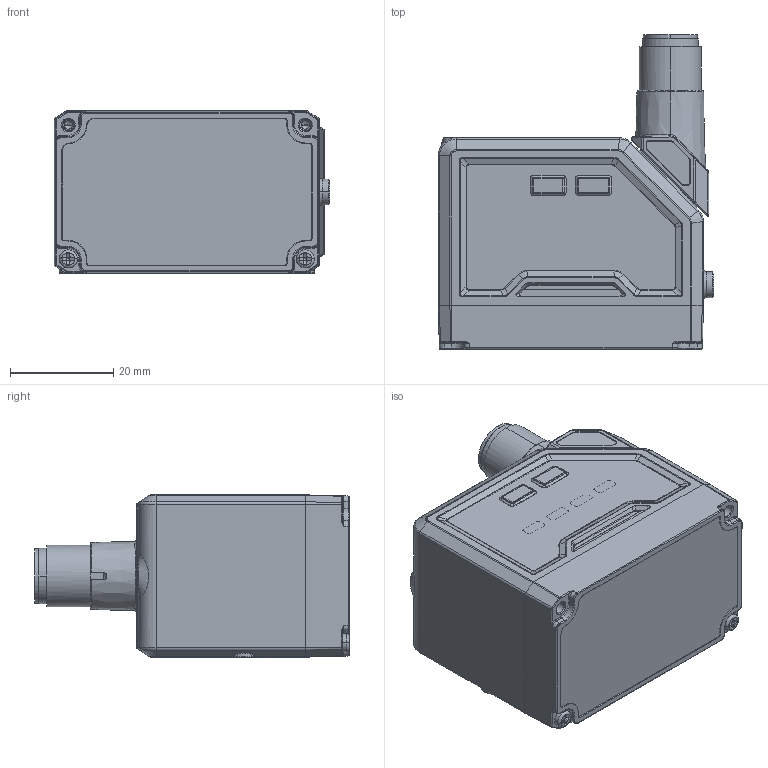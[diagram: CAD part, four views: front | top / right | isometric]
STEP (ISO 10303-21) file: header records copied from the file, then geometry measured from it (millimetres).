
FILE_DESCRIPTION((''),'2;1');
FILE_NAME('000-ID2000X-90','2025-09-11T12:35:10',('yangxiaobing6'),(''),'CREO PARAMETRIC BY PTC INC, 2020044','CREO PARAMETRIC BY PTC INC, 2020044','');
FILE_SCHEMA(('CONFIG_CONTROL_DESIGN','SHAPE_APPEARANCE_LAYERS_GROUPS'));
Products named in the file (1): 000-ID2000X-90
Bounding box: 53.5 x 61.04 x 31.5 mm (x, y, z)
Volume: 62902.6 mm3; surface area: 18815.1 mm2
Topology: 1 solids, 25 shells, 1784 faces, 4420 edges, 2719 vertices
Faces by surface type: plane 608, cylinder 556, cone 268, bspline 185, torus 134, extrusion 21, sphere 12
Entity records: 65658 total; most frequent: CARTESIAN_POINT 20936, ORIENTED_EDGE 8756, DIRECTION 8366, EDGE_CURVE 4378, AXIS2_PLACEMENT_3D 3132, VERTEX_POINT 2719, VECTOR 2102, LINE 2081
